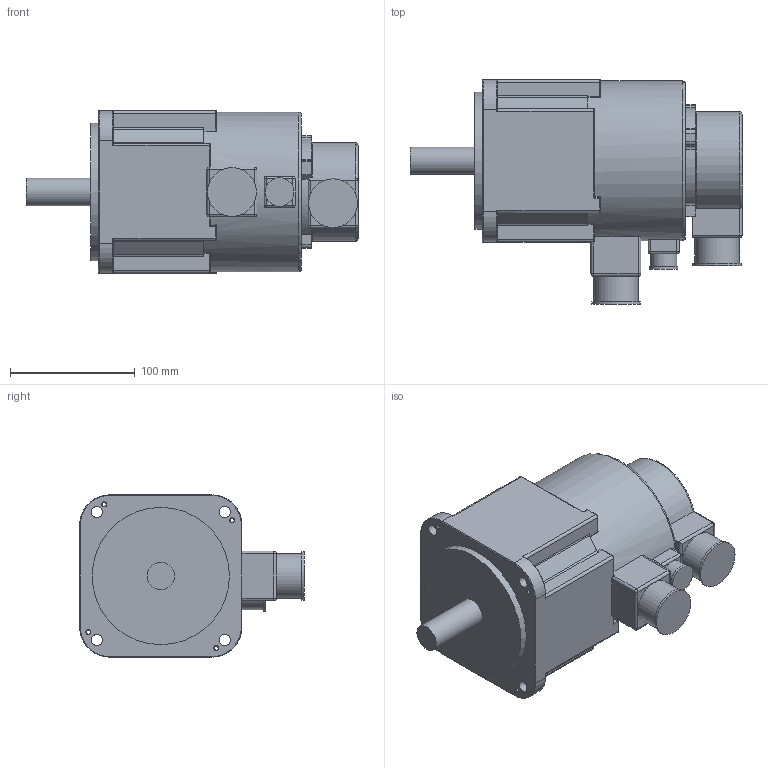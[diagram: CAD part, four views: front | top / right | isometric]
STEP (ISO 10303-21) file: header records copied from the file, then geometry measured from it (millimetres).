
FILE_DESCRIPTION(/* description */ (''),/* implementation_level */ '2;1');
FILE_NAME(/* name */ '130GSL08315-FZ.stp',/* time_stamp */ '2019-11-22T13:53:44+08:00',/* author */ (''),/* organization */ (''),/* preprocessor_version */ 'ST-DEVELOPER v16',/* originating_system */ 'SIEMENS PLM Software NX 10.0',/* authorisation */ '');
FILE_SCHEMA (('CONFIG_CONTROL_DESIGN'));
Length unit declared in the file: millimetre
Products named in the file (1): 130GSL08315-FZ
Bounding box: 266 x 180 x 130 mm (x, y, z)
Volume: 2725189.7 mm3; surface area: 139749.1 mm2
Topology: 1 solids, 1 shells, 329 faces, 808 edges, 459 vertices
Faces by surface type: cylinder 149, plane 90, torus 38, bspline 27, sphere 17, cone 8
Full cylindrical faces by diameter (mm): 3.3 x4, 9 x4, 21 x1, 22 x1, 23 x1, 36 x2, 39 x2, 110 x1, 128 x1
Entity records: 11268 total; most frequent: CARTESIAN_POINT 3845, DIRECTION 1562, ORIENTED_EDGE 1496, EDGE_CURVE 748, AXIS2_PLACEMENT_3D 619, VERTEX_POINT 454, EDGE_LOOP 378, ADVANCED_FACE 329
